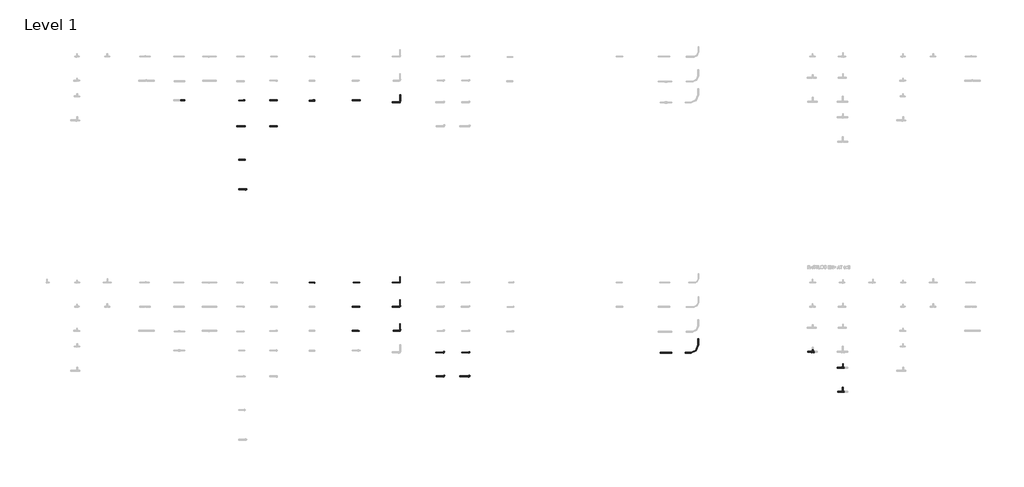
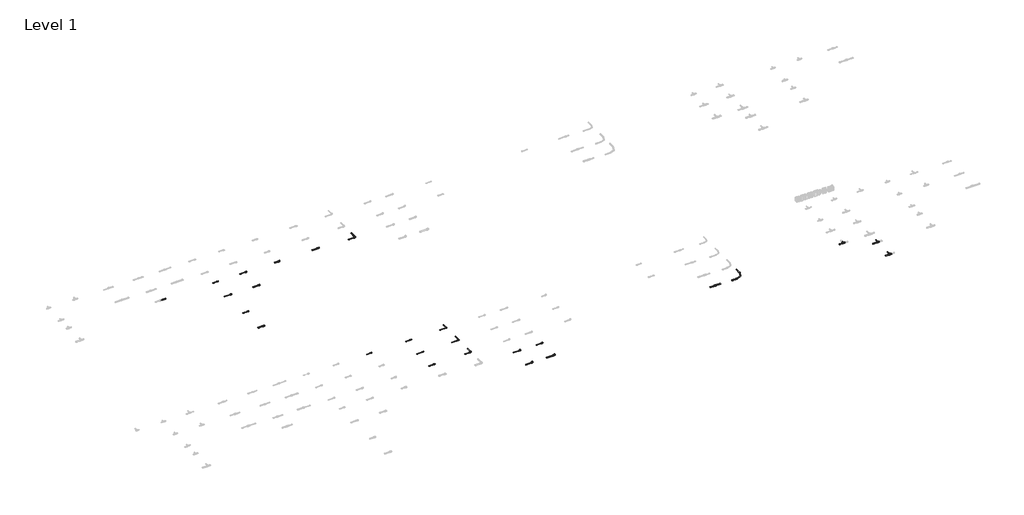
# One storey, part 4 of 16: 34 pipe segments, 26 pipe fittings.
"""IFC4 building model written with IfcOpenShell, lengths in millimetres."""

from ifc_helpers import new_model, si_unit, point, frame, frame_2d, origin, place, context, project, spatial, circle_curve, trimmed, segment, composite_curve, outline, extrude, transform, mapped, element, save
from components import pipe_fitting_9dc6dfba, pipe_fitting_2e9639ed, pipe_fitting_a8fbe6ac, pipe_fitting_373418fb, pipe_fitting_d71fb650, pipe_fitting_546e3b0f, pipe_fitting_bc9683d6, pipe_fitting_048a34f4, pipe_fitting_29655fe2, pipe_fitting_4892b1d5, pipe_fitting_e188583c, pipe_fitting_fb4eec36, pipe_fitting_127ecf93, pipe_fitting_cd4c1f98, pipe_fitting_85239123, pipe_fitting_6c2c1df7, pipe_fitting_8eda894a, pipe_fitting_a2f8d1bd, pipe_fitting_43ece0d2, pipe_fitting_f574101e, pipe_fitting_ed7d2527, pipe_fitting_034b971a, pipe_fitting_5e5bb3cb, pipe_fitting_b159315d, pipe_fitting_8e6c19f7, pipe_fitting_1c80bece

model = new_model("IFC4")

# Units and contexts
model_context = context("Model", 3, world=origin())
ifc_project = project(units=[si_unit("LENGTHUNIT", "METRE", prefix="MILLI")], contexts=[model_context])

# Site, building, storey
site = spatial("IfcSite", under=ifc_project)
building = spatial("IfcBuilding", under=site)
storey = spatial("IfcBuildingStorey", under=building, Name="Level 1", Elevation=0.0)

# Pipe fittings
placement = place(None, origin())
pipe_fitting_shape = pipe_fitting_9dc6dfba(model_context)
element("IfcPipeFitting", 1, ObjectType="FASTLOC_Corner EX+ : FSL C EX+ AT", at=placement, inside=storey, context=model_context, shape_type="MappedRepresentation", body=[
    mapped(pipe_fitting_shape, transform((15275.3824015, -6287.6479967, 0.0), x_axis=(1.0, 0.0, 0.0), y_axis=(0.0, 1.0, 0.0), z_axis=(0.0, 0.0, 1.0))),
])
pipe_fitting_2_shape = pipe_fitting_2e9639ed(model_context)
element("IfcPipeFitting", 2, ObjectType="FASTLOC Copper press adapter RX+ : FSL RX+ AT", at=placement, inside=storey, context=model_context, shape_type="MappedRepresentation", body=[
    mapped(pipe_fitting_2_shape, transform((13915.3824015, -6287.6479967, 0.0), x_axis=(1.0, 0.0, 0.0), y_axis=(0.0, 1.0, 0.0), z_axis=(0.0, 0.0, 1.0))),
])
pipe_fitting_3_shape = pipe_fitting_a8fbe6ac(model_context)
element("IfcPipeFitting", 3, ObjectType="RAUTITAN_Sleeve PX : RTI S PX", at=placement, inside=storey, context=model_context, shape_type="MappedRepresentation", body=[
    mapped(pipe_fitting_3_shape, transform((24110.6241081, -8611.8142398, 13.7), x_axis=(1.0, 0.0, 0.0), y_axis=(0.0, 1.0, 0.0), z_axis=(0.0, 0.0, 1.0))),
])
pipe_fitting_4_shape = pipe_fitting_373418fb(model_context)
element("IfcPipeFitting", 4, ObjectType="FASTLOC_ML_bend : FSL ML DE", at=placement, inside=storey, context=model_context, shape_type="MappedRepresentation", body=[
    mapped(pipe_fitting_4_shape, transform((25170.2040344, -8611.8142398, 0.0), x_axis=(1.0, 0.0, 0.0), y_axis=(0.0, 1.0, 0.0), z_axis=(0.0, 0.0, 1.0))),
])
pipe_fitting_5_shape = pipe_fitting_d71fb650(model_context)
element("IfcPipeFitting", 5, ObjectType="FASTLOC_Elbow with male thread EX+ : FSL A internal AT", at=placement, inside=storey, context=model_context, shape_type="MappedRepresentation", body=[
    mapped(pipe_fitting_5_shape, transform((16735.3824015, -8604.9640428, 0.0), x_axis=(1.0, 0.0, 0.0), y_axis=(0.0, 1.0, 0.0), z_axis=(0.0, 0.0, 1.0))),
])
pipe_fitting_6_shape = pipe_fitting_546e3b0f(model_context)
element("IfcPipeFitting", 6, ObjectType="FASTLOC_Elbow with male thread EX+ : FSL A internal AT", at=placement, inside=storey, context=model_context, shape_type="MappedRepresentation", body=[
    mapped(pipe_fitting_6_shape, transform((16735.3824015, -9399.407392, 0.0), x_axis=(1.0, 0.0, 0.0), y_axis=(0.0, 1.0, 0.0), z_axis=(0.0, 0.0, 1.0))),
])
pipe_fitting_7_shape = pipe_fitting_bc9683d6(model_context)
element("IfcPipeFitting", 7, ObjectType="FASTLOC_T-piece_EX+ : FSL T-Piece EX+ AT", at=placement, inside=storey, context=model_context, shape_type="MappedRepresentation", body=[
    mapped(pipe_fitting_7_shape, transform((28962.9146925, -8587.6479967, 0.0), x_axis=(1.0, 0.0, 0.0), y_axis=(0.0, 1.0, 0.0), z_axis=(0.0, 0.0, 1.0))),
])
pipe_fitting_8_shape = pipe_fitting_048a34f4(model_context)
element("IfcPipeFitting", 8, ObjectType="FASTLOC_T-piece_EX+ : FSL T-Piece EX+ AT", at=placement, inside=storey, context=model_context, shape_type="MappedRepresentation", body=[
    mapped(pipe_fitting_8_shape, transform((29962.9146925, -9107.6479967, 0.0), x_axis=(1.0, 0.0, 0.0), y_axis=(0.0, 1.0, 0.0), z_axis=(0.0, 0.0, 1.0))),
])
pipe_fitting_9_shape = pipe_fitting_29655fe2(model_context)
element("IfcPipeFitting", 9, ObjectType="FASTLOC_T-piece_EX+ : FSL T-Piece EX+ AT", at=placement, inside=storey, context=model_context, shape_type="MappedRepresentation", body=[
    mapped(pipe_fitting_9_shape, transform((29962.9146925, -9907.6479967, 0.0), x_axis=(1.0, 0.0, 0.0), y_axis=(0.0, 1.0, 0.0), z_axis=(0.0, 0.0, 1.0))),
])
pipe_fitting_10_shape = pipe_fitting_4892b1d5(model_context)
element("IfcPipeFitting", 10, ObjectType="FASTLOC_Adapter coupling EX+ : FSL TC EX+ AT", at=placement, inside=storey, context=model_context, shape_type="MappedRepresentation", body=[
    mapped(pipe_fitting_10_shape, transform((24091.3241081, -8611.8142398, 13.7), x_axis=(1.0, 0.0, 0.0), y_axis=(0.0, 1.0, 0.0), z_axis=(0.0, 0.0, 1.0))),
])
pipe_fitting_11_shape = pipe_fitting_e188583c(model_context)
element("IfcPipeFitting", 11, ObjectType="FASTLOC Copper press adapter RX+ : FSL RX+ DE", at=placement, inside=storey, context=model_context, shape_type="MappedRepresentation", body=[
    mapped(pipe_fitting_11_shape, transform((13915.3824015, -239.0537829, 0.0), x_axis=(1.0, 0.0, 0.0), y_axis=(0.0, 1.0, 0.0), z_axis=(0.0, 0.0, 1.0))),
])
pipe_fitting_12_shape = pipe_fitting_fb4eec36(model_context)
element("IfcPipeFitting", 12, ObjectType="FASTLOC Copper press adapter RX+ : FSL RX+ AT", at=placement, inside=storey, context=model_context, shape_type="MappedRepresentation", body=[
    mapped(pipe_fitting_12_shape, transform((13915.3824015, -7087.6479967, 0.0), x_axis=(1.0, 0.0, 0.0), y_axis=(0.0, 1.0, 0.0), z_axis=(0.0, 0.0, 1.0))),
])
pipe_fitting_13_shape = pipe_fitting_127ecf93(model_context)
element("IfcPipeFitting", 13, ObjectType="FASTLOC Copper press adapter RX+ : FSL RX+ AT", at=placement, inside=storey, context=model_context, shape_type="MappedRepresentation", body=[
    mapped(pipe_fitting_13_shape, transform((13895.3824015, -7887.6479967, 0.0), x_axis=(1.0, 0.0, 0.0), y_axis=(0.0, 1.0, 0.0), z_axis=(0.0, 0.0, 1.0))),
])
pipe_fitting_14_shape = pipe_fitting_cd4c1f98(model_context)
element("IfcPipeFitting", 14, ObjectType="FASTLOC_Adapter_EX+, with internal thread : FSL A internal DE", at=placement, inside=storey, context=model_context, shape_type="MappedRepresentation", body=[
    mapped(pipe_fitting_14_shape, transform((11179.5143796, -239.0537829, 0.0), x_axis=(1.0, 0.0, 0.0), y_axis=(0.0, 1.0, 0.0), z_axis=(0.0, 0.0, 1.0))),
])
pipe_fitting_15_shape = pipe_fitting_85239123(model_context)
element("IfcPipeFitting", 15, ObjectType="FASTLOC_Adapter_EX+, with internal thread : FSL A internal DE", at=placement, inside=storey, context=model_context, shape_type="MappedRepresentation", body=[
    mapped(pipe_fitting_15_shape, transform((11179.5143796, -1099.407392, 0.0), x_axis=(1.0, 0.0, 0.0), y_axis=(0.0, 1.0, 0.0), z_axis=(0.0, 0.0, 1.0))),
])
pipe_fitting_16_shape = pipe_fitting_6c2c1df7(model_context)
element("IfcPipeFitting", 16, ObjectType="FASTLOC_Elbow with female thread EX+ : FSL A internal AT", at=placement, inside=storey, context=model_context, shape_type="MappedRepresentation", body=[
    mapped(pipe_fitting_16_shape, transform((17573.8113057, -8604.9640428, 0.0), x_axis=(1.0, 0.0, 0.0), y_axis=(0.0, 1.0, 0.0), z_axis=(0.0, 0.0, 1.0))),
])
pipe_fitting_17_shape = pipe_fitting_8eda894a(model_context)
element("IfcPipeFitting", 17, ObjectType="FASTLOC_Elbow with female thread EX+ : FSL A internal AT", at=placement, inside=storey, context=model_context, shape_type="MappedRepresentation", body=[
    mapped(pipe_fitting_17_shape, transform((17573.8113057, -9399.407392, 0.0), x_axis=(1.0, 0.0, 0.0), y_axis=(0.0, 1.0, 0.0), z_axis=(0.0, 0.0, 1.0))),
])
pipe_fitting_18_shape = pipe_fitting_a2f8d1bd(model_context)
element("IfcPipeFitting", 18, ObjectType="FASTLOC_Corner EX+ : FSL C EX+ DE", at=placement, inside=storey, context=model_context, shape_type="MappedRepresentation", body=[
    mapped(pipe_fitting_18_shape, transform((15275.3824015, -304.9640428, 0.0), x_axis=(1.0, 0.0, 0.0), y_axis=(0.0, 1.0, 0.0), z_axis=(0.0, 0.0, 1.0))),
])
pipe_fitting_19_shape = pipe_fitting_43ece0d2(model_context)
element("IfcPipeFitting", 19, ObjectType="FASTLOC_Corner EX+ : FSL C EX+ AT", at=placement, inside=storey, context=model_context, shape_type="MappedRepresentation", body=[
    mapped(pipe_fitting_19_shape, transform((15275.3824015, -7087.6479967, 0.0), x_axis=(1.0, 0.0, 0.0), y_axis=(0.0, 1.0, 0.0), z_axis=(0.0, 0.0, 1.0))),
])
pipe_fitting_20_shape = pipe_fitting_f574101e(model_context)
element("IfcPipeFitting", 20, ObjectType="FASTLOC_Corner EX+ : FSL C EX+ AT", at=placement, inside=storey, context=model_context, shape_type="MappedRepresentation", body=[
    mapped(pipe_fitting_20_shape, transform((15275.3824015, -7887.6479967, 0.0), x_axis=(1.0, 0.0, 0.0), y_axis=(0.0, 1.0, 0.0), z_axis=(0.0, 0.0, 1.0))),
])
pipe_fitting_21_shape = pipe_fitting_ed7d2527(model_context)
element("IfcPipeFitting", 21, ObjectType="FASTLOC_Adapter_RX+, with external thread : FSL A C external EX+ DE", at=placement, inside=storey, context=model_context, shape_type="MappedRepresentation", body=[
    mapped(pipe_fitting_21_shape, transform((10098.2332092, -239.0537829, 0.0), x_axis=(1.0, 0.0, 0.0), y_axis=(0.0, 1.0, 0.0), z_axis=(0.0, 0.0, 1.0))),
])
pipe_fitting_22_shape = pipe_fitting_034b971a(model_context)
element("IfcPipeFitting", 22, ObjectType="FASTLOC_Adapter_RX+, with external thread : FSL A C external EX+ DE", at=placement, inside=storey, context=model_context, shape_type="MappedRepresentation", body=[
    mapped(pipe_fitting_22_shape, transform((10110.8952889, -1099.407392, 0.0), x_axis=(1.0, 0.0, 0.0), y_axis=(0.0, 1.0, 0.0), z_axis=(0.0, 0.0, 1.0))),
])
pipe_fitting_23_shape = pipe_fitting_5e5bb3cb(model_context)
element("IfcPipeFitting", 23, ObjectType="FASTLOC_Adapter_RX+, with external thread : FSL A C external EX+ DE", at=placement, inside=storey, context=model_context, shape_type="MappedRepresentation", body=[
    mapped(pipe_fitting_23_shape, transform((10115.9601208, -2213.6704117, 0.0), x_axis=(1.0, 0.0, 0.0), y_axis=(0.0, 1.0, 0.0), z_axis=(0.0, 0.0, 1.0))),
])
pipe_fitting_24_shape = pipe_fitting_b159315d(model_context)
element("IfcPipeFitting", 24, ObjectType="FASTLOC_Adapter_RX+, with external thread : FSL A C external EX+ DE", at=placement, inside=storey, context=model_context, shape_type="MappedRepresentation", body=[
    mapped(pipe_fitting_24_shape, transform((10153.9463601, -3193.7153858, 0.0), x_axis=(1.0, 0.0, 0.0), y_axis=(0.0, 1.0, 0.0), z_axis=(0.0, 0.0, 1.0))),
])
pipe_fitting_25_shape = pipe_fitting_8e6c19f7(model_context)
element("IfcPipeFitting", 25, ObjectType="FASTLOC_Adapter with union nut EX+ : FSL A union nut EX+ DE", at=placement, inside=storey, context=model_context, shape_type="MappedRepresentation", body=[
    mapped(pipe_fitting_25_shape, transform((12418.3503777, -6287.6479967, 0.0), x_axis=(1.0, 0.0, 0.0), y_axis=(0.0, 1.0, 0.0), z_axis=(0.0, 0.0, 1.0))),
])
pipe_fitting_26_shape = pipe_fitting_1c80bece(model_context)
element("IfcPipeFitting", 26, ObjectType="FASTLOC_Adapter with union nut EX+ : FSL A union nut EX+ DE", at=placement, inside=storey, context=model_context, shape_type="MappedRepresentation", body=[
    mapped(pipe_fitting_26_shape, transform((12418.3503777, -247.0537829, 0.0), x_axis=(1.0, 0.0, 0.0), y_axis=(0.0, 1.0, 0.0), z_axis=(0.0, 0.0, 1.0))),
])

# Pipe segments
element("IfcPipeSegment", 27, ObjectType="FASTLOC EX+ ML DE bar", at=placement, inside=storey, context=model_context, shape_type="SweptSolid", body=[
    extrude(outline(composite_curve([segment(trimmed(circle_curve(frame_2d((0.0, 15275.3824015)), 16.0), [point((0.0, 15291.3824015))], [point((16.0, 15275.3824015))], False, "CARTESIAN"), True, "CONTINUOUS"), segment(trimmed(circle_curve(frame_2d((0.0, 15275.3824015)), 16.0), [point((16.0, 15275.3824015))], [point((0.0, 15259.3824015))], False, "CARTESIAN"), True, "CONTINUOUS"), segment(trimmed(circle_curve(frame_2d((0.0, 15275.3824015)), 16.0), [point((0.0, 15259.3824015))], [point((-16.0, 15275.3824015))], False, "CARTESIAN"), True, "CONTINUOUS"), segment(trimmed(circle_curve(frame_2d((0.0, 15275.3824015)), 16.0), [point((-16.0, 15275.3824015))], [point((0.0, 15291.3824015))], False, "CARTESIAN"), True, "CONTINUOUS")], self_intersect=False)), frame((0.0, -269.9640428, 0.0), z_axis=(0.0, 1.0, 0.0), x_axis=(0.0, 0.0, 1.0)), (0.0, 0.0, 1.0), 220.0),
])
element("IfcPipeSegment", 28, ObjectType="FASTLOC EX+ ML DE bar", at=placement, inside=storey, context=model_context, shape_type="SweptSolid", body=[
    extrude(outline(composite_curve([segment(trimmed(circle_curve(frame_2d((-304.9640428, 0.0)), 16.0), [point((-288.9640428, 0.0))], [point((-304.9640428, -16.0))], False, "CARTESIAN"), True, "CONTINUOUS"), segment(trimmed(circle_curve(frame_2d((-304.9640428, 0.0)), 16.0), [point((-304.9640428, -16.0))], [point((-320.9640428, 0.0))], False, "CARTESIAN"), True, "CONTINUOUS"), segment(trimmed(circle_curve(frame_2d((-304.9640428, 0.0)), 16.0), [point((-320.9640428, 0.0))], [point((-304.9640428, 16.0))], False, "CARTESIAN"), True, "CONTINUOUS"), segment(trimmed(circle_curve(frame_2d((-304.9640428, 0.0)), 16.0), [point((-304.9640428, 16.0))], [point((-288.9640428, 0.0))], False, "CARTESIAN"), True, "CONTINUOUS")], self_intersect=False)), frame((15013.2824015, 0.0, 0.0), z_axis=(1.0, 0.0, 0.0), x_axis=(0.0, 1.0, 0.0)), (0.0, 0.0, 1.0), 227.1),
])
element("IfcPipeSegment", 29, ObjectType="FASTLOC EX+ ML DE bar", at=placement, inside=storey, context=model_context, shape_type="SweptSolid", body=[
    extrude(outline(composite_curve([segment(trimmed(circle_curve(frame_2d((-239.0537829, 0.0)), 16.0), [point((-223.0537829, 0.0))], [point((-239.0537829, -16.0))], False, "CARTESIAN"), True, "CONTINUOUS"), segment(trimmed(circle_curve(frame_2d((-239.0537829, 0.0)), 16.0), [point((-239.0537829, -16.0))], [point((-255.0537829, 0.0))], False, "CARTESIAN"), True, "CONTINUOUS"), segment(trimmed(circle_curve(frame_2d((-239.0537829, 0.0)), 16.0), [point((-255.0537829, 0.0))], [point((-239.0537829, 16.0))], False, "CARTESIAN"), True, "CONTINUOUS"), segment(trimmed(circle_curve(frame_2d((-239.0537829, 0.0)), 16.0), [point((-239.0537829, 16.0))], [point((-223.0537829, 0.0))], False, "CARTESIAN"), True, "CONTINUOUS")], self_intersect=False)), frame((13682.2824015, 0.0, 0.0), z_axis=(1.0, 0.0, 0.0), x_axis=(0.0, 1.0, 0.0)), (0.0, 0.0, 1.0), 220.0),
])
element("IfcPipeSegment", 30, ObjectType="FASTLOC EX+ ML DE bar", at=placement, inside=storey, context=model_context, shape_type="SweptSolid", body=[
    extrude(outline(composite_curve([segment(trimmed(circle_curve(frame_2d((-247.0537829, 0.0)), 16.0), [point((-231.0537829, 0.0))], [point((-247.0537829, -16.0))], False, "CARTESIAN"), True, "CONTINUOUS"), segment(trimmed(circle_curve(frame_2d((-247.0537829, 0.0)), 16.0), [point((-247.0537829, -16.0))], [point((-263.0537829, 0.0))], False, "CARTESIAN"), True, "CONTINUOUS"), segment(trimmed(circle_curve(frame_2d((-247.0537829, 0.0)), 16.0), [point((-263.0537829, 0.0))], [point((-247.0537829, 16.0))], False, "CARTESIAN"), True, "CONTINUOUS"), segment(trimmed(circle_curve(frame_2d((-247.0537829, 0.0)), 16.0), [point((-247.0537829, 16.0))], [point((-231.0537829, 0.0))], False, "CARTESIAN"), True, "CONTINUOUS")], self_intersect=False)), frame((12259.3503777, 0.0, 0.0), z_axis=(1.0, 0.0, 0.0), x_axis=(0.0, 1.0, 0.0)), (0.0, 0.0, 1.0), 147.5),
])
element("IfcPipeSegment", 31, ObjectType="FASTLOC EX+ ML DE bar", at=placement, inside=storey, context=model_context, shape_type="SweptSolid", body=[
    extrude(outline(composite_curve([segment(trimmed(circle_curve(frame_2d((-239.0537829, 0.0)), 12.5), [point((-226.5537829, 0.0))], [point((-239.0537829, -12.5))], False, "CARTESIAN"), True, "CONTINUOUS"), segment(trimmed(circle_curve(frame_2d((-239.0537829, 0.0)), 12.5), [point((-239.0537829, -12.5))], [point((-251.5537829, 0.0))], False, "CARTESIAN"), True, "CONTINUOUS"), segment(trimmed(circle_curve(frame_2d((-239.0537829, 0.0)), 12.5), [point((-251.5537829, 0.0))], [point((-239.0537829, 12.5))], False, "CARTESIAN"), True, "CONTINUOUS"), segment(trimmed(circle_curve(frame_2d((-239.0537829, 0.0)), 12.5), [point((-239.0537829, 12.5))], [point((-226.5537829, 0.0))], False, "CARTESIAN"), True, "CONTINUOUS")], self_intersect=False)), frame((10946.6143796, 0.0, 0.0), z_axis=(1.0, 0.0, 0.0), x_axis=(0.0, 1.0, 0.0)), (0.0, 0.0, 1.0), 220.0),
])
element("IfcPipeSegment", 32, ObjectType="FASTLOC EX+ ML DE bar", at=placement, inside=storey, context=model_context, shape_type="SweptSolid", body=[
    extrude(outline(composite_curve([segment(trimmed(circle_curve(frame_2d((-1099.407392, 0.0)), 16.0), [point((-1083.407392, 0.0))], [point((-1099.407392, -16.0))], False, "CARTESIAN"), True, "CONTINUOUS"), segment(trimmed(circle_curve(frame_2d((-1099.407392, 0.0)), 16.0), [point((-1099.407392, -16.0))], [point((-1115.407392, 0.0))], False, "CARTESIAN"), True, "CONTINUOUS"), segment(trimmed(circle_curve(frame_2d((-1099.407392, 0.0)), 16.0), [point((-1115.407392, 0.0))], [point((-1099.407392, 16.0))], False, "CARTESIAN"), True, "CONTINUOUS"), segment(trimmed(circle_curve(frame_2d((-1099.407392, 0.0)), 16.0), [point((-1099.407392, 16.0))], [point((-1083.407392, 0.0))], False, "CARTESIAN"), True, "CONTINUOUS")], self_intersect=False)), frame((10946.6143796, 0.0, 0.0), z_axis=(1.0, 0.0, 0.0), x_axis=(0.0, 1.0, 0.0)), (0.0, 0.0, 1.0), 218.4),
])
element("IfcPipeSegment", 33, ObjectType="FASTLOC EX+ ML DE bar", at=placement, inside=storey, context=model_context, shape_type="SweptSolid", body=[
    extrude(outline(composite_curve([segment(trimmed(circle_curve(frame_2d((-2213.6704117, 0.0)), 12.5), [point((-2201.1704117, 0.0))], [point((-2213.6704117, -12.5))], False, "CARTESIAN"), True, "CONTINUOUS"), segment(trimmed(circle_curve(frame_2d((-2213.6704117, 0.0)), 12.5), [point((-2213.6704117, -12.5))], [point((-2226.1704117, 0.0))], False, "CARTESIAN"), True, "CONTINUOUS"), segment(trimmed(circle_curve(frame_2d((-2213.6704117, 0.0)), 12.5), [point((-2226.1704117, 0.0))], [point((-2213.6704117, 12.5))], False, "CARTESIAN"), True, "CONTINUOUS"), segment(trimmed(circle_curve(frame_2d((-2213.6704117, 0.0)), 12.5), [point((-2213.6704117, 12.5))], [point((-2201.1704117, 0.0))], False, "CARTESIAN"), True, "CONTINUOUS")], self_intersect=False)), frame((9926.5601208, 0.0, 0.0), z_axis=(1.0, 0.0, 0.0), x_axis=(0.0, 1.0, 0.0)), (0.0, 0.0, 1.0), 180.0),
])
element("IfcPipeSegment", 34, ObjectType="FASTLOC EX+ ML DE bar", at=placement, inside=storey, context=model_context, shape_type="SweptSolid", body=[
    extrude(outline(composite_curve([segment(trimmed(circle_curve(frame_2d((-1099.407392, 0.0)), 12.5), [point((-1086.907392, 0.0))], [point((-1099.407392, -12.5))], False, "CARTESIAN"), True, "CONTINUOUS"), segment(trimmed(circle_curve(frame_2d((-1099.407392, 0.0)), 12.5), [point((-1099.407392, -12.5))], [point((-1111.907392, 0.0))], False, "CARTESIAN"), True, "CONTINUOUS"), segment(trimmed(circle_curve(frame_2d((-1099.407392, 0.0)), 12.5), [point((-1111.907392, 0.0))], [point((-1099.407392, 12.5))], False, "CARTESIAN"), True, "CONTINUOUS"), segment(trimmed(circle_curve(frame_2d((-1099.407392, 0.0)), 12.5), [point((-1099.407392, 12.5))], [point((-1086.907392, 0.0))], False, "CARTESIAN"), True, "CONTINUOUS")], self_intersect=False)), frame((9861.4952889, 0.0, 0.0), z_axis=(1.0, 0.0, 0.0), x_axis=(0.0, 1.0, 0.0)), (0.0, 0.0, 1.0), 240.0),
])
element("IfcPipeSegment", 35, ObjectType="FASTLOC EX+ ML DE bar", at=placement, inside=storey, context=model_context, shape_type="SweptSolid", body=[
    extrude(outline(composite_curve([segment(trimmed(circle_curve(frame_2d((-239.0537829, 0.0)), 10.0), [point((-229.0537829, 0.0))], [point((-239.0537829, -10.0))], False, "CARTESIAN"), True, "CONTINUOUS"), segment(trimmed(circle_curve(frame_2d((-239.0537829, 0.0)), 10.0), [point((-239.0537829, -10.0))], [point((-249.0537829, 0.0))], False, "CARTESIAN"), True, "CONTINUOUS"), segment(trimmed(circle_curve(frame_2d((-239.0537829, 0.0)), 10.0), [point((-249.0537829, 0.0))], [point((-239.0537829, 10.0))], False, "CARTESIAN"), True, "CONTINUOUS"), segment(trimmed(circle_curve(frame_2d((-239.0537829, 0.0)), 10.0), [point((-239.0537829, 10.0))], [point((-229.0537829, 0.0))], False, "CARTESIAN"), True, "CONTINUOUS")], self_intersect=False)), frame((9926.5601208, 0.0, 0.0), z_axis=(1.0, 0.0, 0.0), x_axis=(0.0, 1.0, 0.0)), (0.0, 0.0, 1.0), 162.3730883),
])
element("IfcPipeSegment", 36, ObjectType="FASTLOC EX+ ML DE bar", at=placement, inside=storey, context=model_context, shape_type="SweptSolid", body=[
    extrude(outline(composite_curve([segment(trimmed(circle_curve(frame_2d((-239.0537829, 0.0)), 16.0), [point((-255.0537829, 0.0))], [point((-239.0537829, 16.0))], False, "CARTESIAN"), True, "CONTINUOUS"), segment(trimmed(circle_curve(frame_2d((-239.0537829, 0.0)), 16.0), [point((-239.0537829, 16.0))], [point((-223.0537829, 0.0))], False, "CARTESIAN"), True, "CONTINUOUS"), segment(trimmed(circle_curve(frame_2d((-239.0537829, 0.0)), 16.0), [point((-223.0537829, 0.0))], [point((-239.0537829, -16.0))], False, "CARTESIAN"), True, "CONTINUOUS"), segment(trimmed(circle_curve(frame_2d((-239.0537829, 0.0)), 16.0), [point((-239.0537829, -16.0))], [point((-255.0537829, 0.0))], False, "CARTESIAN"), True, "CONTINUOUS")], self_intersect=False)), frame((7957.6401575, 0.0, 0.0), z_axis=(1.0, 0.0, 0.0), x_axis=(0.0, 1.0, 0.0)), (0.0, 0.0, 1.0), 178.0),
])
element("IfcPipeSegment", 37, ObjectType="FASTLOC EX+ ML DE bar", at=placement, inside=storey, context=model_context, shape_type="SweptSolid", body=[
    extrude(outline(composite_curve([segment(trimmed(circle_curve(frame_2d((-3193.7153858, 0.0)), 16.0), [point((-3177.7153858, 0.0))], [point((-3193.7153858, -16.0))], False, "CARTESIAN"), True, "CONTINUOUS"), segment(trimmed(circle_curve(frame_2d((-3193.7153858, 0.0)), 16.0), [point((-3193.7153858, -16.0))], [point((-3209.7153858, 0.0))], False, "CARTESIAN"), True, "CONTINUOUS"), segment(trimmed(circle_curve(frame_2d((-3193.7153858, 0.0)), 16.0), [point((-3209.7153858, 0.0))], [point((-3193.7153858, 16.0))], False, "CARTESIAN"), True, "CONTINUOUS"), segment(trimmed(circle_curve(frame_2d((-3193.7153858, 0.0)), 16.0), [point((-3193.7153858, 16.0))], [point((-3177.7153858, 0.0))], False, "CARTESIAN"), True, "CONTINUOUS")], self_intersect=False)), frame((9926.5601208, 0.0, 0.0), z_axis=(1.0, 0.0, 0.0), x_axis=(0.0, 1.0, 0.0)), (0.0, 0.0, 1.0), 212.7862393),
])
element("IfcPipeSegment", 38, ObjectType="FASTLOC EX+ ML AT bar", at=placement, inside=storey, context=model_context, shape_type="SweptSolid", body=[
    extrude(outline(composite_curve([segment(trimmed(circle_curve(frame_2d((0.0, 25170.2040344)), 16.0), [point((0.0, 25186.2040344))], [point((16.0, 25170.2040344))], False, "CARTESIAN"), True, "CONTINUOUS"), segment(trimmed(circle_curve(frame_2d((0.0, 25170.2040344)), 16.0), [point((16.0, 25170.2040344))], [point((0.0, 25154.2040344))], False, "CARTESIAN"), True, "CONTINUOUS"), segment(trimmed(circle_curve(frame_2d((0.0, 25170.2040344)), 16.0), [point((0.0, 25154.2040344))], [point((-16.0, 25170.2040344))], False, "CARTESIAN"), True, "CONTINUOUS"), segment(trimmed(circle_curve(frame_2d((0.0, 25170.2040344)), 16.0), [point((-16.0, 25170.2040344))], [point((0.0, 25186.2040344))], False, "CARTESIAN"), True, "CONTINUOUS")], self_intersect=False)), frame((0.0, -8355.8142398, 0.0), z_axis=(0.0, 1.0, 0.0), x_axis=(0.0, 0.0, 1.0)), (0.0, 0.0, 1.0), 200.0),
])
element("IfcPipeSegment", 39, ObjectType="FASTLOC EX+ ML AT bar", at=placement, inside=storey, context=model_context, shape_type="SweptSolid", body=[
    extrude(outline(composite_curve([segment(trimmed(circle_curve(frame_2d((-8611.8142398, 0.0)), 16.0), [point((-8595.8142398, 0.0))], [point((-8611.8142398, -16.0))], False, "CARTESIAN"), True, "CONTINUOUS"), segment(trimmed(circle_curve(frame_2d((-8611.8142398, 0.0)), 16.0), [point((-8611.8142398, -16.0))], [point((-8627.8142398, 0.0))], False, "CARTESIAN"), True, "CONTINUOUS"), segment(trimmed(circle_curve(frame_2d((-8611.8142398, 0.0)), 16.0), [point((-8627.8142398, 0.0))], [point((-8611.8142398, 16.0))], False, "CARTESIAN"), True, "CONTINUOUS"), segment(trimmed(circle_curve(frame_2d((-8611.8142398, 0.0)), 16.0), [point((-8611.8142398, 16.0))], [point((-8595.8142398, 0.0))], False, "CARTESIAN"), True, "CONTINUOUS")], self_intersect=False)), frame((24730.2040344, 0.0, 0.0), z_axis=(1.0, 0.0, 0.0), x_axis=(0.0, 1.0, 0.0)), (0.0, 0.0, 1.0), 184.0),
])
element("IfcPipeSegment", 40, ObjectType="FASTLOC EX+ ML AT bar", at=placement, inside=storey, context=model_context, shape_type="SweptSolid", body=[
    extrude(outline(composite_curve([segment(trimmed(circle_curve(frame_2d((-8611.8142398, 13.7)), 16.0), [point((-8627.8142398, 13.7))], [point((-8611.8142398, 29.7))], False, "CARTESIAN"), True, "CONTINUOUS"), segment(trimmed(circle_curve(frame_2d((-8611.8142398, 13.7)), 16.0), [point((-8611.8142398, 29.7))], [point((-8595.8142398, 13.7))], False, "CARTESIAN"), True, "CONTINUOUS"), segment(trimmed(circle_curve(frame_2d((-8611.8142398, 13.7)), 16.0), [point((-8595.8142398, 13.7))], [point((-8611.8142398, -2.3))], False, "CARTESIAN"), True, "CONTINUOUS"), segment(trimmed(circle_curve(frame_2d((-8611.8142398, 13.7)), 16.0), [point((-8611.8142398, -2.3))], [point((-8627.8142398, 13.7))], False, "CARTESIAN"), True, "CONTINUOUS")], self_intersect=False)), frame((24110.6241081, 0.0, 0.0), z_axis=(1.0, 0.0, 0.0), x_axis=(0.0, 1.0, 0.0)), (0.0, 0.0, 1.0), 180.0),
])
element("IfcPipeSegment", 41, ObjectType="FASTLOC EX+ ML AT bar", at=placement, inside=storey, context=model_context, shape_type="SweptSolid", body=[
    extrude(outline(composite_curve([segment(trimmed(circle_curve(frame_2d((-8611.8142398, 13.7)), 16.0), [point((-8595.8142398, 13.7))], [point((-8611.8142398, -2.3))], False, "CARTESIAN"), True, "CONTINUOUS"), segment(trimmed(circle_curve(frame_2d((-8611.8142398, 13.7)), 16.0), [point((-8611.8142398, -2.3))], [point((-8627.8142398, 13.7))], False, "CARTESIAN"), True, "CONTINUOUS"), segment(trimmed(circle_curve(frame_2d((-8611.8142398, 13.7)), 16.0), [point((-8627.8142398, 13.7))], [point((-8611.8142398, 29.7))], False, "CARTESIAN"), True, "CONTINUOUS"), segment(trimmed(circle_curve(frame_2d((-8611.8142398, 13.7)), 16.0), [point((-8611.8142398, 29.7))], [point((-8595.8142398, 13.7))], False, "CARTESIAN"), True, "CONTINUOUS")], self_intersect=False)), frame((23905.8241081, 0.0, 0.0), z_axis=(1.0, 0.0, 0.0), x_axis=(0.0, 1.0, 0.0)), (0.0, 0.0, 1.0), 180.0),
])
element("IfcPipeSegment", 42, ObjectType="FASTLOC EX+ ML AT bar", at=placement, inside=storey, context=model_context, shape_type="SweptSolid", body=[
    extrude(outline(composite_curve([segment(trimmed(circle_curve(frame_2d((-8604.9640428, 0.0)), 12.5), [point((-8592.4640428, 0.0))], [point((-8604.9640428, -12.5))], False, "CARTESIAN"), True, "CONTINUOUS"), segment(trimmed(circle_curve(frame_2d((-8604.9640428, 0.0)), 12.5), [point((-8604.9640428, -12.5))], [point((-8617.4640428, 0.0))], False, "CARTESIAN"), True, "CONTINUOUS"), segment(trimmed(circle_curve(frame_2d((-8604.9640428, 0.0)), 12.5), [point((-8617.4640428, 0.0))], [point((-8604.9640428, 12.5))], False, "CARTESIAN"), True, "CONTINUOUS"), segment(trimmed(circle_curve(frame_2d((-8604.9640428, 0.0)), 12.5), [point((-8604.9640428, 12.5))], [point((-8592.4640428, 0.0))], False, "CARTESIAN"), True, "CONTINUOUS")], self_intersect=False)), frame((17326.8113057, 0.0, 0.0), z_axis=(1.0, 0.0, 0.0), x_axis=(0.0, 1.0, 0.0)), (0.0, 0.0, 1.0), 220.0),
])
element("IfcPipeSegment", 43, ObjectType="FASTLOC EX+ ML AT bar", at=placement, inside=storey, context=model_context, shape_type="SweptSolid", body=[
    extrude(outline(composite_curve([segment(trimmed(circle_curve(frame_2d((-8604.9640428, 0.0)), 12.5), [point((-8592.4640428, 0.0))], [point((-8604.9640428, -12.5))], False, "CARTESIAN"), True, "CONTINUOUS"), segment(trimmed(circle_curve(frame_2d((-8604.9640428, 0.0)), 12.5), [point((-8604.9640428, -12.5))], [point((-8617.4640428, 0.0))], False, "CARTESIAN"), True, "CONTINUOUS"), segment(trimmed(circle_curve(frame_2d((-8604.9640428, 0.0)), 12.5), [point((-8617.4640428, 0.0))], [point((-8604.9640428, 12.5))], False, "CARTESIAN"), True, "CONTINUOUS"), segment(trimmed(circle_curve(frame_2d((-8604.9640428, 0.0)), 12.5), [point((-8604.9640428, 12.5))], [point((-8592.4640428, 0.0))], False, "CARTESIAN"), True, "CONTINUOUS")], self_intersect=False)), frame((16461.1824015, 0.0, 0.0), z_axis=(1.0, 0.0, 0.0), x_axis=(0.0, 1.0, 0.0)), (0.0, 0.0, 1.0), 250.0),
])
element("IfcPipeSegment", 44, ObjectType="FASTLOC EX+ ML AT bar", at=placement, inside=storey, context=model_context, shape_type="SweptSolid", body=[
    extrude(outline(composite_curve([segment(trimmed(circle_curve(frame_2d((-9399.407392, 0.0)), 16.0), [point((-9383.407392, 0.0))], [point((-9399.407392, -16.0))], False, "CARTESIAN"), True, "CONTINUOUS"), segment(trimmed(circle_curve(frame_2d((-9399.407392, 0.0)), 16.0), [point((-9399.407392, -16.0))], [point((-9415.407392, 0.0))], False, "CARTESIAN"), True, "CONTINUOUS"), segment(trimmed(circle_curve(frame_2d((-9399.407392, 0.0)), 16.0), [point((-9415.407392, 0.0))], [point((-9399.407392, 16.0))], False, "CARTESIAN"), True, "CONTINUOUS"), segment(trimmed(circle_curve(frame_2d((-9399.407392, 0.0)), 16.0), [point((-9399.407392, 16.0))], [point((-9383.407392, 0.0))], False, "CARTESIAN"), True, "CONTINUOUS")], self_intersect=False)), frame((16475.6824015, 0.0, 0.0), z_axis=(1.0, 0.0, 0.0), x_axis=(0.0, 1.0, 0.0)), (0.0, 0.0, 1.0), 230.0),
])
element("IfcPipeSegment", 45, ObjectType="FASTLOC EX+ ML AT bar", at=placement, inside=storey, context=model_context, shape_type="SweptSolid", body=[
    extrude(outline(composite_curve([segment(trimmed(circle_curve(frame_2d((-9399.407392, 0.0)), 16.0), [point((-9383.407392, 0.0))], [point((-9399.407392, -16.0))], False, "CARTESIAN"), True, "CONTINUOUS"), segment(trimmed(circle_curve(frame_2d((-9399.407392, 0.0)), 16.0), [point((-9399.407392, -16.0))], [point((-9415.407392, 0.0))], False, "CARTESIAN"), True, "CONTINUOUS"), segment(trimmed(circle_curve(frame_2d((-9399.407392, 0.0)), 16.0), [point((-9415.407392, 0.0))], [point((-9399.407392, 16.0))], False, "CARTESIAN"), True, "CONTINUOUS"), segment(trimmed(circle_curve(frame_2d((-9399.407392, 0.0)), 16.0), [point((-9399.407392, 16.0))], [point((-9383.407392, 0.0))], False, "CARTESIAN"), True, "CONTINUOUS")], self_intersect=False)), frame((17261.8113057, 0.0, 0.0), z_axis=(1.0, 0.0, 0.0), x_axis=(0.0, 1.0, 0.0)), (0.0, 0.0, 1.0), 280.0),
])
element("IfcPipeSegment", 46, ObjectType="FASTLOC EX+ ML AT bar", at=placement, inside=storey, context=model_context, shape_type="SweptSolid", body=[
    extrude(outline(composite_curve([segment(trimmed(circle_curve(frame_2d((-6287.6479967, 0.0)), 8.0), [point((-6279.6479967, 0.0))], [point((-6287.6479967, -8.0))], False, "CARTESIAN"), True, "CONTINUOUS"), segment(trimmed(circle_curve(frame_2d((-6287.6479967, 0.0)), 8.0), [point((-6287.6479967, -8.0))], [point((-6295.6479967, 0.0))], False, "CARTESIAN"), True, "CONTINUOUS"), segment(trimmed(circle_curve(frame_2d((-6287.6479967, 0.0)), 8.0), [point((-6295.6479967, 0.0))], [point((-6287.6479967, 8.0))], False, "CARTESIAN"), True, "CONTINUOUS"), segment(trimmed(circle_curve(frame_2d((-6287.6479967, 0.0)), 8.0), [point((-6287.6479967, 8.0))], [point((-6279.6479967, 0.0))], False, "CARTESIAN"), True, "CONTINUOUS")], self_intersect=False)), frame((15013.2824015, 0.0, 0.0), z_axis=(1.0, 0.0, 0.0), x_axis=(0.0, 1.0, 0.0)), (0.0, 0.0, 1.0), 240.0),
])
element("IfcPipeSegment", 47, ObjectType="FASTLOC EX+ ML AT bar", at=placement, inside=storey, context=model_context, shape_type="SweptSolid", body=[
    extrude(outline(composite_curve([segment(trimmed(circle_curve(frame_2d((-7087.6479967, 0.0)), 10.0), [point((-7077.6479967, 0.0))], [point((-7087.6479967, -10.0))], False, "CARTESIAN"), True, "CONTINUOUS"), segment(trimmed(circle_curve(frame_2d((-7087.6479967, 0.0)), 10.0), [point((-7087.6479967, -10.0))], [point((-7097.6479967, 0.0))], False, "CARTESIAN"), True, "CONTINUOUS"), segment(trimmed(circle_curve(frame_2d((-7087.6479967, 0.0)), 10.0), [point((-7097.6479967, 0.0))], [point((-7087.6479967, 10.0))], False, "CARTESIAN"), True, "CONTINUOUS"), segment(trimmed(circle_curve(frame_2d((-7087.6479967, 0.0)), 10.0), [point((-7087.6479967, 10.0))], [point((-7077.6479967, 0.0))], False, "CARTESIAN"), True, "CONTINUOUS")], self_intersect=False)), frame((15013.2824015, 0.0, 0.0), z_axis=(1.0, 0.0, 0.0), x_axis=(0.0, 1.0, 0.0)), (0.0, 0.0, 1.0), 237.5),
])
element("IfcPipeSegment", 48, ObjectType="FASTLOC EX+ ML AT bar", at=placement, inside=storey, context=model_context, shape_type="SweptSolid", body=[
    extrude(outline(composite_curve([segment(trimmed(circle_curve(frame_2d((0.0, 15275.3824015)), 10.0), [point((0.0, 15285.3824015))], [point((10.0, 15275.3824015))], False, "CARTESIAN"), True, "CONTINUOUS"), segment(trimmed(circle_curve(frame_2d((0.0, 15275.3824015)), 10.0), [point((10.0, 15275.3824015))], [point((0.0, 15265.3824015))], False, "CARTESIAN"), True, "CONTINUOUS"), segment(trimmed(circle_curve(frame_2d((0.0, 15275.3824015)), 10.0), [point((0.0, 15265.3824015))], [point((-10.0, 15275.3824015))], False, "CARTESIAN"), True, "CONTINUOUS"), segment(trimmed(circle_curve(frame_2d((0.0, 15275.3824015)), 10.0), [point((-10.0, 15275.3824015))], [point((0.0, 15285.3824015))], False, "CARTESIAN"), True, "CONTINUOUS")], self_intersect=False)), frame((0.0, -7063.0479967, 0.0), z_axis=(0.0, 1.0, 0.0), x_axis=(0.0, 0.0, 1.0)), (0.0, 0.0, 1.0), 200.0),
])
element("IfcPipeSegment", 49, ObjectType="FASTLOC EX+ ML AT bar", at=placement, inside=storey, context=model_context, shape_type="SweptSolid", body=[
    extrude(outline(composite_curve([segment(trimmed(circle_curve(frame_2d((0.0, 15275.3824015)), 8.0), [point((0.0, 15283.3824015))], [point((8.0, 15275.3824015))], False, "CARTESIAN"), True, "CONTINUOUS"), segment(trimmed(circle_curve(frame_2d((0.0, 15275.3824015)), 8.0), [point((8.0, 15275.3824015))], [point((0.0, 15267.3824015))], False, "CARTESIAN"), True, "CONTINUOUS"), segment(trimmed(circle_curve(frame_2d((0.0, 15275.3824015)), 8.0), [point((0.0, 15267.3824015))], [point((-8.0, 15275.3824015))], False, "CARTESIAN"), True, "CONTINUOUS"), segment(trimmed(circle_curve(frame_2d((0.0, 15275.3824015)), 8.0), [point((-8.0, 15275.3824015))], [point((0.0, 15283.3824015))], False, "CARTESIAN"), True, "CONTINUOUS")], self_intersect=False)), frame((0.0, -6265.5479967, 0.0), z_axis=(0.0, 1.0, 0.0), x_axis=(0.0, 0.0, 1.0)), (0.0, 0.0, 1.0), 180.0),
])
element("IfcPipeSegment", 50, ObjectType="FASTLOC EX+ ML AT bar", at=placement, inside=storey, context=model_context, shape_type="SweptSolid", body=[
    extrude(outline(composite_curve([segment(trimmed(circle_curve(frame_2d((0.0, 15275.3824015)), 12.5), [point((0.0, 15287.8824015))], [point((12.5, 15275.3824015))], False, "CARTESIAN"), True, "CONTINUOUS"), segment(trimmed(circle_curve(frame_2d((0.0, 15275.3824015)), 12.5), [point((12.5, 15275.3824015))], [point((0.0, 15262.8824015))], False, "CARTESIAN"), True, "CONTINUOUS"), segment(trimmed(circle_curve(frame_2d((0.0, 15275.3824015)), 12.5), [point((0.0, 15262.8824015))], [point((-12.5, 15275.3824015))], False, "CARTESIAN"), True, "CONTINUOUS"), segment(trimmed(circle_curve(frame_2d((0.0, 15275.3824015)), 12.5), [point((-12.5, 15275.3824015))], [point((0.0, 15287.8824015))], False, "CARTESIAN"), True, "CONTINUOUS")], self_intersect=False)), frame((0.0, -7858.6479967, 0.0), z_axis=(0.0, 1.0, 0.0), x_axis=(0.0, 0.0, 1.0)), (0.0, 0.0, 1.0), 200.0),
])
element("IfcPipeSegment", 51, ObjectType="FASTLOC EX+ ML AT bar", at=placement, inside=storey, context=model_context, shape_type="SweptSolid", body=[
    extrude(outline(composite_curve([segment(trimmed(circle_curve(frame_2d((-7887.6479967, 0.0)), 12.5), [point((-7875.1479967, 0.0))], [point((-7887.6479967, -12.5))], False, "CARTESIAN"), True, "CONTINUOUS"), segment(trimmed(circle_curve(frame_2d((-7887.6479967, 0.0)), 12.5), [point((-7887.6479967, -12.5))], [point((-7900.1479967, 0.0))], False, "CARTESIAN"), True, "CONTINUOUS"), segment(trimmed(circle_curve(frame_2d((-7887.6479967, 0.0)), 12.5), [point((-7900.1479967, 0.0))], [point((-7887.6479967, 12.5))], False, "CARTESIAN"), True, "CONTINUOUS"), segment(trimmed(circle_curve(frame_2d((-7887.6479967, 0.0)), 12.5), [point((-7887.6479967, 12.5))], [point((-7875.1479967, 0.0))], False, "CARTESIAN"), True, "CONTINUOUS")], self_intersect=False)), frame((15046.3824015, 0.0, 0.0), z_axis=(1.0, 0.0, 0.0), x_axis=(0.0, 1.0, 0.0)), (0.0, 0.0, 1.0), 200.0),
])
element("IfcPipeSegment", 52, ObjectType="FASTLOC EX+ ML AT bar", at=placement, inside=storey, context=model_context, shape_type="SweptSolid", body=[
    extrude(outline(composite_curve([segment(trimmed(circle_curve(frame_2d((-7887.6479967, 0.0)), 12.5), [point((-7875.1479967, 0.0))], [point((-7887.6479967, -12.5))], False, "CARTESIAN"), True, "CONTINUOUS"), segment(trimmed(circle_curve(frame_2d((-7887.6479967, 0.0)), 12.5), [point((-7887.6479967, -12.5))], [point((-7900.1479967, 0.0))], False, "CARTESIAN"), True, "CONTINUOUS"), segment(trimmed(circle_curve(frame_2d((-7887.6479967, 0.0)), 12.5), [point((-7900.1479967, 0.0))], [point((-7887.6479967, 12.5))], False, "CARTESIAN"), True, "CONTINUOUS"), segment(trimmed(circle_curve(frame_2d((-7887.6479967, 0.0)), 12.5), [point((-7887.6479967, 12.5))], [point((-7875.1479967, 0.0))], False, "CARTESIAN"), True, "CONTINUOUS")], self_intersect=False)), frame((13682.2824015, 0.0, 0.0), z_axis=(1.0, 0.0, 0.0), x_axis=(0.0, 1.0, 0.0)), (0.0, 0.0, 1.0), 202.5),
])
element("IfcPipeSegment", 53, ObjectType="FASTLOC EX+ ML AT bar", at=placement, inside=storey, context=model_context, shape_type="SweptSolid", body=[
    extrude(outline(composite_curve([segment(trimmed(circle_curve(frame_2d((-7087.6479967, 0.0)), 10.0), [point((-7077.6479967, 0.0))], [point((-7087.6479967, -10.0))], False, "CARTESIAN"), True, "CONTINUOUS"), segment(trimmed(circle_curve(frame_2d((-7087.6479967, 0.0)), 10.0), [point((-7087.6479967, -10.0))], [point((-7097.6479967, 0.0))], False, "CARTESIAN"), True, "CONTINUOUS"), segment(trimmed(circle_curve(frame_2d((-7087.6479967, 0.0)), 10.0), [point((-7097.6479967, 0.0))], [point((-7087.6479967, 10.0))], False, "CARTESIAN"), True, "CONTINUOUS"), segment(trimmed(circle_curve(frame_2d((-7087.6479967, 0.0)), 10.0), [point((-7087.6479967, 10.0))], [point((-7077.6479967, 0.0))], False, "CARTESIAN"), True, "CONTINUOUS")], self_intersect=False)), frame((13682.2824015, 0.0, 0.0), z_axis=(1.0, 0.0, 0.0), x_axis=(0.0, 1.0, 0.0)), (0.0, 0.0, 1.0), 223.9),
])
element("IfcPipeSegment", 54, ObjectType="FASTLOC EX+ ML AT bar", at=placement, inside=storey, context=model_context, shape_type="SweptSolid", body=[
    extrude(outline(composite_curve([segment(trimmed(circle_curve(frame_2d((-6287.6479967, 0.0)), 8.0), [point((-6279.6479967, 0.0))], [point((-6287.6479967, -8.0))], False, "CARTESIAN"), True, "CONTINUOUS"), segment(trimmed(circle_curve(frame_2d((-6287.6479967, 0.0)), 8.0), [point((-6287.6479967, -8.0))], [point((-6295.6479967, 0.0))], False, "CARTESIAN"), True, "CONTINUOUS"), segment(trimmed(circle_curve(frame_2d((-6287.6479967, 0.0)), 8.0), [point((-6295.6479967, 0.0))], [point((-6287.6479967, 8.0))], False, "CARTESIAN"), True, "CONTINUOUS"), segment(trimmed(circle_curve(frame_2d((-6287.6479967, 0.0)), 8.0), [point((-6287.6479967, 8.0))], [point((-6279.6479967, 0.0))], False, "CARTESIAN"), True, "CONTINUOUS")], self_intersect=False)), frame((13726.4824015, 0.0, 0.0), z_axis=(1.0, 0.0, 0.0), x_axis=(0.0, 1.0, 0.0)), (0.0, 0.0, 1.0), 180.0),
])
element("IfcPipeSegment", 55, ObjectType="FASTLOC EX+ ML AT bar", at=placement, inside=storey, context=model_context, shape_type="SweptSolid", body=[
    extrude(outline(composite_curve([segment(trimmed(circle_curve(frame_2d((-6287.6479967, 0.0)), 8.0), [point((-6279.6479967, 0.0))], [point((-6287.6479967, -8.0))], False, "CARTESIAN"), True, "CONTINUOUS"), segment(trimmed(circle_curve(frame_2d((-6287.6479967, 0.0)), 8.0), [point((-6287.6479967, -8.0))], [point((-6295.6479967, 0.0))], False, "CARTESIAN"), True, "CONTINUOUS"), segment(trimmed(circle_curve(frame_2d((-6287.6479967, 0.0)), 8.0), [point((-6295.6479967, 0.0))], [point((-6287.6479967, 8.0))], False, "CARTESIAN"), True, "CONTINUOUS"), segment(trimmed(circle_curve(frame_2d((-6287.6479967, 0.0)), 8.0), [point((-6287.6479967, 8.0))], [point((-6279.6479967, 0.0))], False, "CARTESIAN"), True, "CONTINUOUS")], self_intersect=False)), frame((12259.3503777, 0.0, 0.0), z_axis=(1.0, 0.0, 0.0), x_axis=(0.0, 1.0, 0.0)), (0.0, 0.0, 1.0), 150.0),
])
element("IfcPipeSegment", 56, ObjectType="FASTLOC EX+ ML AT coil", at=placement, inside=storey, context=model_context, shape_type="SweptSolid", body=[
    extrude(outline(composite_curve([segment(trimmed(circle_curve(frame_2d((-9107.6479967, 0.0)), 16.0), [point((-9091.6479967, 0.0))], [point((-9107.6479967, -16.0))], False, "CARTESIAN"), True, "CONTINUOUS"), segment(trimmed(circle_curve(frame_2d((-9107.6479967, 0.0)), 16.0), [point((-9107.6479967, -16.0))], [point((-9123.6479967, 0.0))], False, "CARTESIAN"), True, "CONTINUOUS"), segment(trimmed(circle_curve(frame_2d((-9107.6479967, 0.0)), 16.0), [point((-9123.6479967, 0.0))], [point((-9107.6479967, 16.0))], False, "CARTESIAN"), True, "CONTINUOUS"), segment(trimmed(circle_curve(frame_2d((-9107.6479967, 0.0)), 16.0), [point((-9107.6479967, 16.0))], [point((-9091.6479967, 0.0))], False, "CARTESIAN"), True, "CONTINUOUS")], self_intersect=False)), frame((29773.1146925, 0.0, 0.0), z_axis=(1.0, 0.0, 0.0), x_axis=(0.0, 1.0, 0.0)), (0.0, 0.0, 1.0), 169.6),
])
element("IfcPipeSegment", 57, ObjectType="FASTLOC EX+ ML AT coil", at=placement, inside=storey, context=model_context, shape_type="SweptSolid", body=[
    extrude(outline(composite_curve([segment(trimmed(circle_curve(frame_2d((0.0, 29962.9146925)), 10.0), [point((0.0, 29972.9146925))], [point((10.0, 29962.9146925))], False, "CARTESIAN"), True, "CONTINUOUS"), segment(trimmed(circle_curve(frame_2d((0.0, 29962.9146925)), 10.0), [point((10.0, 29962.9146925))], [point((0.0, 29952.9146925))], False, "CARTESIAN"), True, "CONTINUOUS"), segment(trimmed(circle_curve(frame_2d((0.0, 29962.9146925)), 10.0), [point((0.0, 29952.9146925))], [point((-10.0, 29962.9146925))], False, "CARTESIAN"), True, "CONTINUOUS"), segment(trimmed(circle_curve(frame_2d((0.0, 29962.9146925)), 10.0), [point((-10.0, 29962.9146925))], [point((0.0, 29972.9146925))], False, "CARTESIAN"), True, "CONTINUOUS")], self_intersect=False)), frame((0.0, -9073.6479967, 0.0), z_axis=(0.0, 1.0, 0.0), x_axis=(0.0, 0.0, 1.0)), (0.0, 0.0, 1.0), 90.0),
])
element("IfcPipeSegment", 58, ObjectType="FASTLOC EX+ ML AT coil", at=placement, inside=storey, context=model_context, shape_type="SweptSolid", body=[
    extrude(outline(composite_curve([segment(trimmed(circle_curve(frame_2d((-9907.6479967, 0.0)), 16.0), [point((-9891.6479967, 0.0))], [point((-9907.6479967, -16.0))], False, "CARTESIAN"), True, "CONTINUOUS"), segment(trimmed(circle_curve(frame_2d((-9907.6479967, 0.0)), 16.0), [point((-9907.6479967, -16.0))], [point((-9923.6479967, 0.0))], False, "CARTESIAN"), True, "CONTINUOUS"), segment(trimmed(circle_curve(frame_2d((-9907.6479967, 0.0)), 16.0), [point((-9923.6479967, 0.0))], [point((-9907.6479967, 16.0))], False, "CARTESIAN"), True, "CONTINUOUS"), segment(trimmed(circle_curve(frame_2d((-9907.6479967, 0.0)), 16.0), [point((-9907.6479967, 16.0))], [point((-9891.6479967, 0.0))], False, "CARTESIAN"), True, "CONTINUOUS")], self_intersect=False)), frame((29795.9146925, 0.0, 0.0), z_axis=(1.0, 0.0, 0.0), x_axis=(0.0, 1.0, 0.0)), (0.0, 0.0, 1.0), 145.0),
])
element("IfcPipeSegment", 59, ObjectType="FASTLOC EX+ ML AT coil", at=placement, inside=storey, context=model_context, shape_type="SweptSolid", body=[
    extrude(outline(composite_curve([segment(trimmed(circle_curve(frame_2d((0.0, 29962.9146925)), 12.5), [point((0.0, 29975.4146925))], [point((12.5, 29962.9146925))], False, "CARTESIAN"), True, "CONTINUOUS"), segment(trimmed(circle_curve(frame_2d((0.0, 29962.9146925)), 12.5), [point((12.5, 29962.9146925))], [point((0.0, 29950.4146925))], False, "CARTESIAN"), True, "CONTINUOUS"), segment(trimmed(circle_curve(frame_2d((0.0, 29962.9146925)), 12.5), [point((0.0, 29950.4146925))], [point((-12.5, 29962.9146925))], False, "CARTESIAN"), True, "CONTINUOUS"), segment(trimmed(circle_curve(frame_2d((0.0, 29962.9146925)), 12.5), [point((-12.5, 29962.9146925))], [point((0.0, 29975.4146925))], False, "CARTESIAN"), True, "CONTINUOUS")], self_intersect=False)), frame((0.0, -9873.2479967, 0.0), z_axis=(0.0, 1.0, 0.0), x_axis=(0.0, 0.0, 1.0)), (0.0, 0.0, 1.0), 120.0),
])
element("IfcPipeSegment", 60, ObjectType="FASTLOC EX+ ML AT coil", at=placement, inside=storey, context=model_context, shape_type="SweptSolid", body=[
    extrude(outline(composite_curve([segment(trimmed(circle_curve(frame_2d((-8587.6479967, 0.0)), 16.0), [point((-8571.6479967, 0.0))], [point((-8587.6479967, -16.0))], False, "CARTESIAN"), True, "CONTINUOUS"), segment(trimmed(circle_curve(frame_2d((-8587.6479967, 0.0)), 16.0), [point((-8587.6479967, -16.0))], [point((-8603.6479967, 0.0))], False, "CARTESIAN"), True, "CONTINUOUS"), segment(trimmed(circle_curve(frame_2d((-8587.6479967, 0.0)), 16.0), [point((-8603.6479967, 0.0))], [point((-8587.6479967, 16.0))], False, "CARTESIAN"), True, "CONTINUOUS"), segment(trimmed(circle_curve(frame_2d((-8587.6479967, 0.0)), 16.0), [point((-8587.6479967, 16.0))], [point((-8571.6479967, 0.0))], False, "CARTESIAN"), True, "CONTINUOUS")], self_intersect=False)), frame((28803.1146925, 0.0, 0.0), z_axis=(1.0, 0.0, 0.0), x_axis=(0.0, 1.0, 0.0)), (0.0, 0.0, 1.0), 135.0),
])

save(model, "model.ifc")
